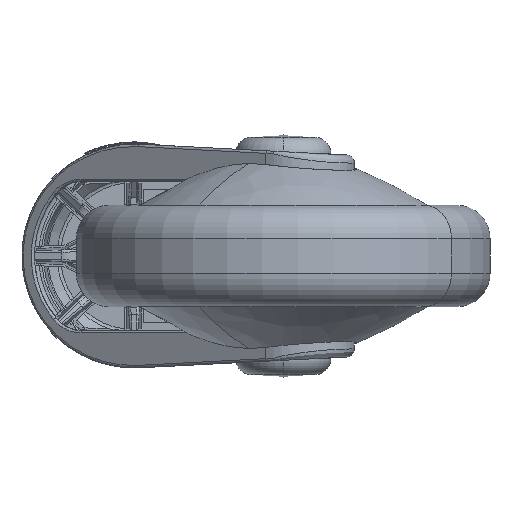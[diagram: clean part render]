
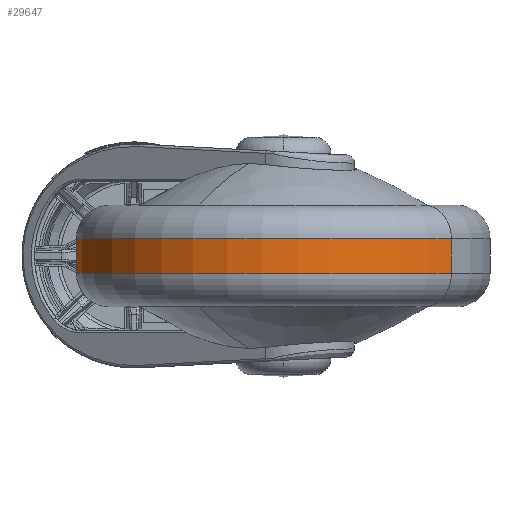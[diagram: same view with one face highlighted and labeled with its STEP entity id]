
A CAD part, front view. The second image highlights one B-rep face of the part: STEP entity #29647.
In plain terms, the highlighted cylindrical face has radius 50 mm (diameter 100 mm), a partial arc.
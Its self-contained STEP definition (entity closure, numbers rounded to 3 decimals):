
#29476=CARTESIAN_POINT('',(63.,17.855,-29.708));
#29477=DIRECTION('',(0.,0.,-1.));
#29478=DIRECTION('',(0.811,-0.585,0.));
#29479=AXIS2_PLACEMENT_3D('',#29476,#29477,#29478);
#29481=DIRECTION('',(0.,0.,-1.));
#29482=VECTOR('',#29481,8.438);
#29483=CARTESIAN_POINT('',(103.547,-11.401,
-29.708));
#29484=LINE('',#29483,#29482);
#29490=DIRECTION('',(0.,0.,-1.));
#29491=VECTOR('',#29490,8.438);
#29492=CARTESIAN_POINT('',(22.453,47.11,
-29.708));
#29493=LINE('',#29492,#29491);
#29557=CARTESIAN_POINT('',(63.,17.855,-38.147));
#29558=DIRECTION('',(0.,0.,-1.));
#29559=DIRECTION('',(0.811,-0.585,0.));
#29560=AXIS2_PLACEMENT_3D('',#29557,#29558,#29559);
#29600=CARTESIAN_POINT('',(103.547,-11.401,
-29.708));
#29601=CARTESIAN_POINT('',(103.547,-11.401,
-38.147));
#29602=VERTEX_POINT('',#29600);
#29603=VERTEX_POINT('',#29601);
#29608=CARTESIAN_POINT('',(22.453,47.11,
-29.708));
#29609=CARTESIAN_POINT('',(22.453,47.11,
-38.147));
#29610=VERTEX_POINT('',#29608);
#29611=VERTEX_POINT('',#29609);
#29632=CARTESIAN_POINT('',(63.,17.855,-20.452));
#29633=DIRECTION('',(0.,0.,-1.));
#29634=DIRECTION('',(0.811,-0.585,0.));
#29635=AXIS2_PLACEMENT_3D('',#29632,#29633,#29634);
#29636=CYLINDRICAL_SURFACE('',#29635,50.);
#29638=ORIENTED_EDGE('',*,*,#29637,.T.);
#29640=ORIENTED_EDGE('',*,*,#29639,.T.);
#29642=ORIENTED_EDGE('',*,*,#29641,.F.);
#29644=ORIENTED_EDGE('',*,*,#29643,.F.);
#29645=EDGE_LOOP('',(#29638,#29640,#29642,#29644));
#29646=FACE_OUTER_BOUND('',#29645,.F.);
#29480=CIRCLE('',#29479,50.);
#29561=CIRCLE('',#29560,50.);
#29637=EDGE_CURVE('',#29602,#29603,#29484,.T.);
#29639=EDGE_CURVE('',#29603,#29611,#29561,.T.);
#29641=EDGE_CURVE('',#29610,#29611,#29493,.T.);
#29643=EDGE_CURVE('',#29602,#29610,#29480,.T.);
#29647=ADVANCED_FACE('',(#29646),#29636,.T.);
